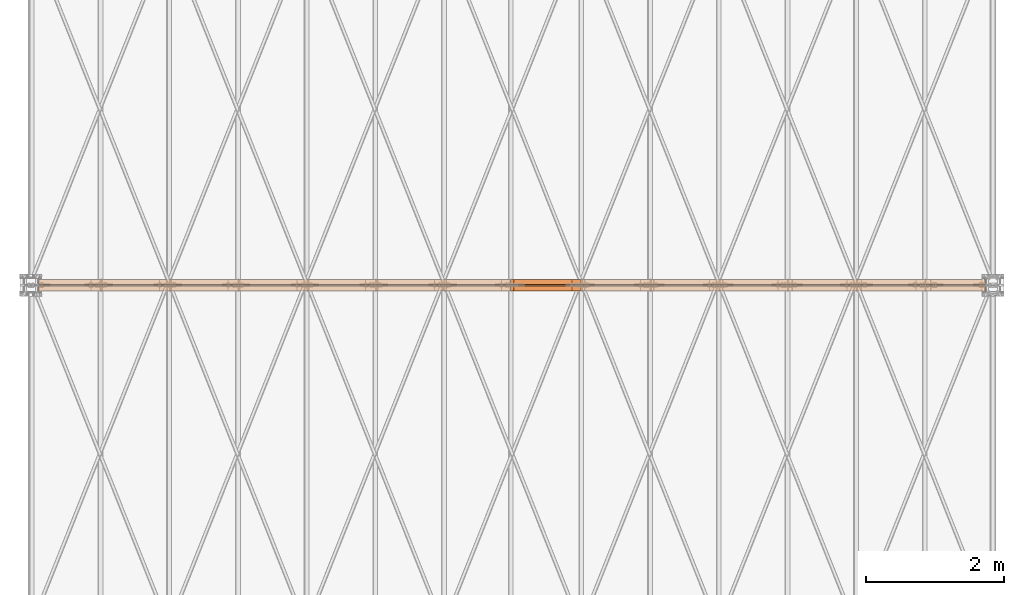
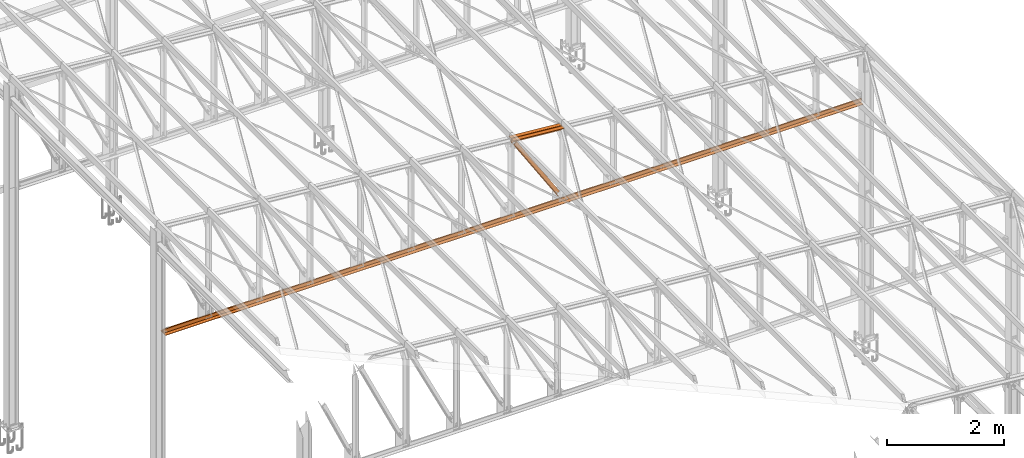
# One storey, part 238 of 251: 6 proxies.
"""IFC4 building model written with IfcOpenShell, lengths in metres."""

from ifc_helpers import new_model, si_unit, frame, origin_with_axes, origin_2d_with_axis, place, context, project, spatial, polyline, i_section, outline, extrude, material, material_profile, profile_set, profile_usage, type_object, element, save


model = new_model("IFC4")

# Units and contexts
model_context = context("Model", 3, precision=1e-05, world=origin_with_axes())
ifc_project = project(units=[si_unit("LENGTHUNIT", "METRE"), si_unit("AREAUNIT", "SQUARE_METRE"), si_unit("VOLUMEUNIT", "CUBIC_METRE"), si_unit("MASSUNIT", "GRAM", prefix="KILO"), si_unit("TIMEUNIT", "SECOND"), si_unit("PLANEANGLEUNIT", "RADIAN"), si_unit("SOLIDANGLEUNIT", "STERADIAN"), si_unit("THERMODYNAMICTEMPERATUREUNIT", "DEGREE_CELSIUS")], contexts=[model_context])

# Site, building, storey
placement_1 = place(None, origin_with_axes())
site = spatial("IfcSite", under=ifc_project, at=placement_1, Name="Italia", CompositionType="ELEMENT")
building = spatial("IfcBuilding", under=site, at=placement_1, Name="Deposito", CompositionType="ELEMENT")
storey = spatial("IfcBuildingStorey", under=building, at=placement_1, Name="Storey 0", CompositionType="ELEMENT", Elevation=0.0)

# Proxies
ifc_material = material(Name="Acciaio", Category="Acciaio")
ifc_material_profile = material_profile(ifc_material, i_section(OverallWidth=0.2, OverallDepth=0.19, WebThickness=0.006, FlangeThickness=0.01, FilletRadius=0.018, at=origin_2d_with_axis()), Name="7 PILASTRO HEA200")
ifc_profile_set = profile_set([ifc_material_profile])
ifc_profile_usage_1 = profile_usage(ifc_profile_set, cardinal=1)
member_type_1 = type_object("IfcMemberType", Name="5 2L80x8", PredefinedType="MEMBER", material=ifc_profile_usage_1)
placement_2 = place(placement_1, origin_with_axes())
proxy_1_placement = place(placement_2, origin_with_axes())
element("IfcBuildingElementProxy", 1, at=proxy_1_placement, inside=storey, type_object=member_type_1, Name="80003", context=model_context, shape_type="SweptSolid", body=[
    extrude(outline(polyline([(0.0, 0.0), (-0.0799999, 0.0), (-0.0799999, 0.0079999), (-0.00799942, 0.0079999), (-0.00799942, 0.0799999), (0.0, 0.0799999), (0.0, 0.0)])), frame((6.15505, 9.995, 4.97748), z_axis=(1.0, 0.0, 0.0), x_axis=(0.0, 1.0, 0.0)), (0.0, 0.0, 1.0), 13.7399),
])
ifc_profile_usage_2 = profile_usage(ifc_profile_set, cardinal=1)
member_type_2 = type_object("IfcMemberType", Name="5 2L80x8", PredefinedType="MEMBER", material=ifc_profile_usage_2)
proxy_2_placement = place(placement_2, origin_with_axes())
element("IfcBuildingElementProxy", 2, at=proxy_2_placement, inside=storey, type_object=member_type_2, Name="80003", context=model_context, shape_type="SweptSolid", body=[
    extrude(outline(polyline([(0.0, 0.0), (0.00799942, 0.0), (0.00799942, -0.072), (0.0799999, -0.072), (0.0799999, -0.0799999), (0.0, -0.0799999), (0.0, 0.0)])), frame((6.15505, 10.005, 5.05748), z_axis=(1.0, 0.0, 0.0), x_axis=(0.0, 1.0, 0.0)), (0.0, 0.0, 1.0), 13.7399),
])
ifc_profile_usage_3 = profile_usage(ifc_profile_set, cardinal=2)
member_type_3 = type_object("IfcMemberType", Name="5 2L80x8", PredefinedType="MEMBER", material=ifc_profile_usage_3)
proxy_3_placement = place(placement_2, origin_with_axes())
element("IfcBuildingElementProxy", 3, at=proxy_3_placement, inside=storey, type_object=member_type_3, Name="230073", context=model_context, shape_type="SweptSolid", body=[
    extrude(outline(polyline([(0.0, 0.0), (0.0799999, 0.0), (0.0799999, -0.00800037), (0.00799942, -0.00800037), (0.00799942, -0.0799999), (0.0, -0.0799999), (0.0, 0.0)])), frame((13.0069, 10.005, 6.6321), z_axis=(0.996389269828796, 0.0, -0.084902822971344), x_axis=(0.0, 1.0, 0.0)), (0.0, 0.0, 1.0), 1.01649),
])
ifc_profile_usage_4 = profile_usage(ifc_profile_set, cardinal=2)
member_type_4 = type_object("IfcMemberType", Name="5 2L80x8", PredefinedType="MEMBER", material=ifc_profile_usage_4)
proxy_4_placement = place(placement_2, origin_with_axes())
element("IfcBuildingElementProxy", 4, at=proxy_4_placement, inside=storey, type_object=member_type_4, Name="230073", context=model_context, shape_type="SweptSolid", body=[
    extrude(outline(polyline([(0.0, 0.0), (-0.00799942, 0.0), (-0.00799942, 0.0719995), (-0.0799999, 0.0719995), (-0.0799999, 0.0799999), (0.0, 0.0799999), (0.0, 0.0)])), frame((13.0001, 9.995, 6.55239), z_axis=(0.996389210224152, 0.0, -0.084902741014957), x_axis=(0.0, 1.0, 0.0)), (0.0, 0.0, 1.0), 1.01649),
])
ifc_profile_usage_5 = profile_usage(ifc_profile_set, cardinal=1)
member_type_5 = type_object("IfcMemberType", Name="5 2L80x8", PredefinedType="MEMBER", material=ifc_profile_usage_5)
proxy_5_placement = place(placement_2, origin_with_axes())
element("IfcBuildingElementProxy", 5, at=proxy_5_placement, inside=storey, type_object=member_type_5, Name="160003", context=model_context, shape_type="SweptSolid", body=[
    extrude(outline(polyline([(0.0, 0.0), (-0.0799999, 0.0), (-0.0799999, 0.00799942), (-0.00799942, 0.00799942), (-0.00799942, 0.0799999), (0.0, 0.0799999), (0.0, 0.0)])), frame((13.05, 9.995, 6.4894), z_axis=(0.536214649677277, 0.0, -0.844081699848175), x_axis=(0.0, 1.0, 0.0)), (0.0, 0.0, 1.0), 1.5624),
])
ifc_profile_usage_6 = profile_usage(ifc_profile_set, cardinal=1)
member_type_6 = type_object("IfcMemberType", Name="5 2L80x8", PredefinedType="MEMBER", material=ifc_profile_usage_6)
proxy_6_placement = place(placement_2, origin_with_axes())
element("IfcBuildingElementProxy", 6, at=proxy_6_placement, inside=storey, type_object=member_type_6, Name="160003", context=model_context, shape_type="SweptSolid", body=[
    extrude(outline(polyline([(0.0, 0.0), (0.00799942, 0.0), (0.00799942, -0.0720005), (0.0799999, -0.0720005), (0.0799999, -0.0799999), (0.0, -0.0799999), (0.0, 0.0)])), frame((13.1175, 10.005, 6.5323), z_axis=(0.536214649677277, 0.0, -0.844081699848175), x_axis=(0.0, 1.0, 0.0)), (0.0, 0.0, 1.0), 1.5624),
])

save(model, "model.ifc")
